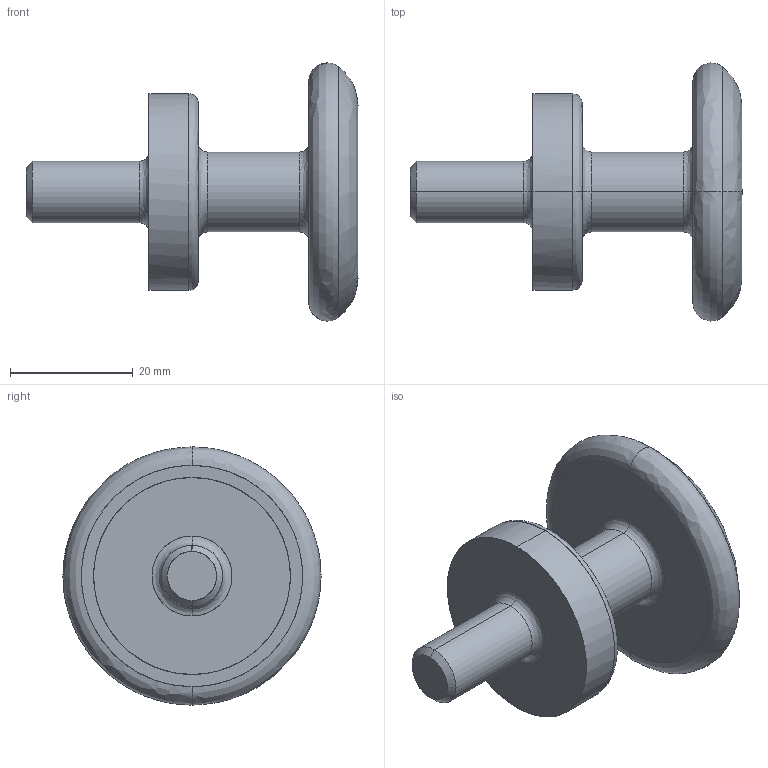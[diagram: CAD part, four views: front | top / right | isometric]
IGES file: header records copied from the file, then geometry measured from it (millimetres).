
Global section: file name: E:\UnigraphicsGraphicData\MISUMI_PRESS-PARTS\IGES\3d_chnl10_03545_r00.igs; native system: NX V5.0; preprocessor: UGS NX IGES V5.0; author: MISUMI; date: 20110105.160221; units: millimetre
Bounding box: 54 x 41.99 x 42 mm (x, y, z)
Surface area: 6781.5 mm2 (no closed solid volume)
Topology: 0 solids, 0 shells, 32 faces, 212 edges, 212 vertices
Faces by surface type: bspline 32
